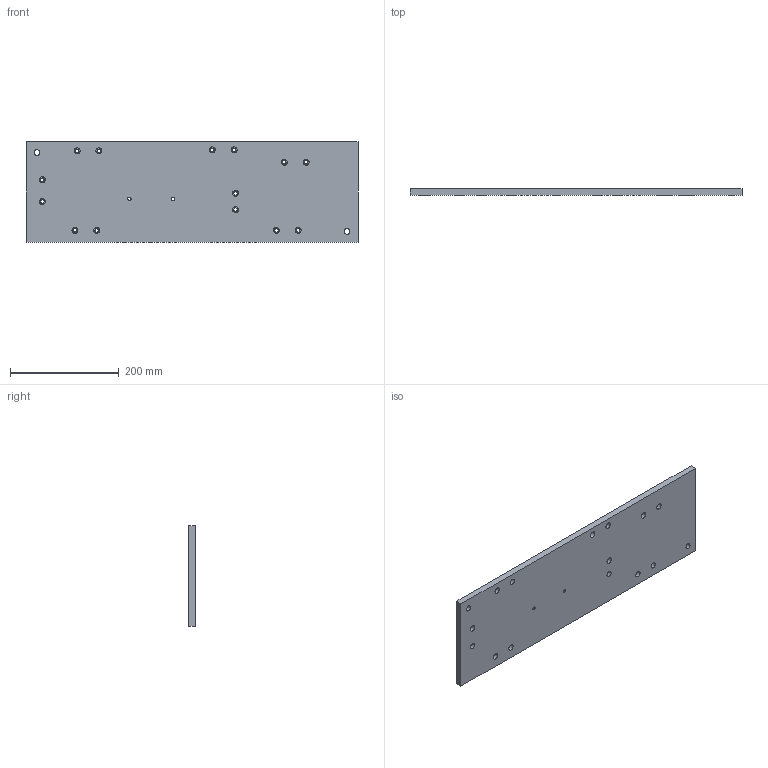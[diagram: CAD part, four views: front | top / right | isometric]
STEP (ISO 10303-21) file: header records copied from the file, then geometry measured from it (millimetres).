
FILE_DESCRIPTION(('CATIA V5 STEP Exchange'),'2;1');
FILE_NAME('C:\Users\Administrator\Desktop\汕德卡换档扶手\上盖板安装夹具-1\底板-01\DJB-00.stp','2023-03-02T09:19:33+00:00',('none'),('none'),'CATIA Version 5 Release 20 GA (IN-10)','CATIA V5 STEP AP203','none');
FILE_SCHEMA(('CONFIG_CONTROL_DESIGN'));
Length unit declared in the file: millimetre
Products named in the file (1): DJB-01
Bounding box: 610 x 12 x 185 mm (x, y, z)
Volume: 1338941.3 mm3; surface area: 249649.5 mm2
Topology: 1 solids, 1 shells, 84 faces, 205 edges, 137 vertices
Faces by surface type: cylinder 64, plane 20
Entity records: 2306 total; most frequent: ORIENTED_EDGE 410, CARTESIAN_POINT 382, DIRECTION 283, EDGE_CURVE 205, AXIS2_PLACEMENT_3D 168, VERTEX_POINT 137, EDGE_LOOP 134, CIRCLE 128
